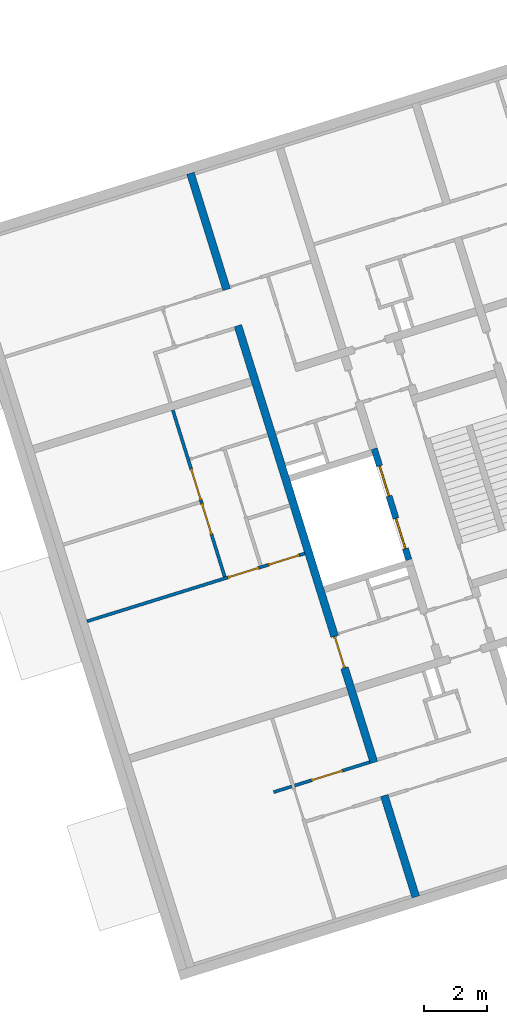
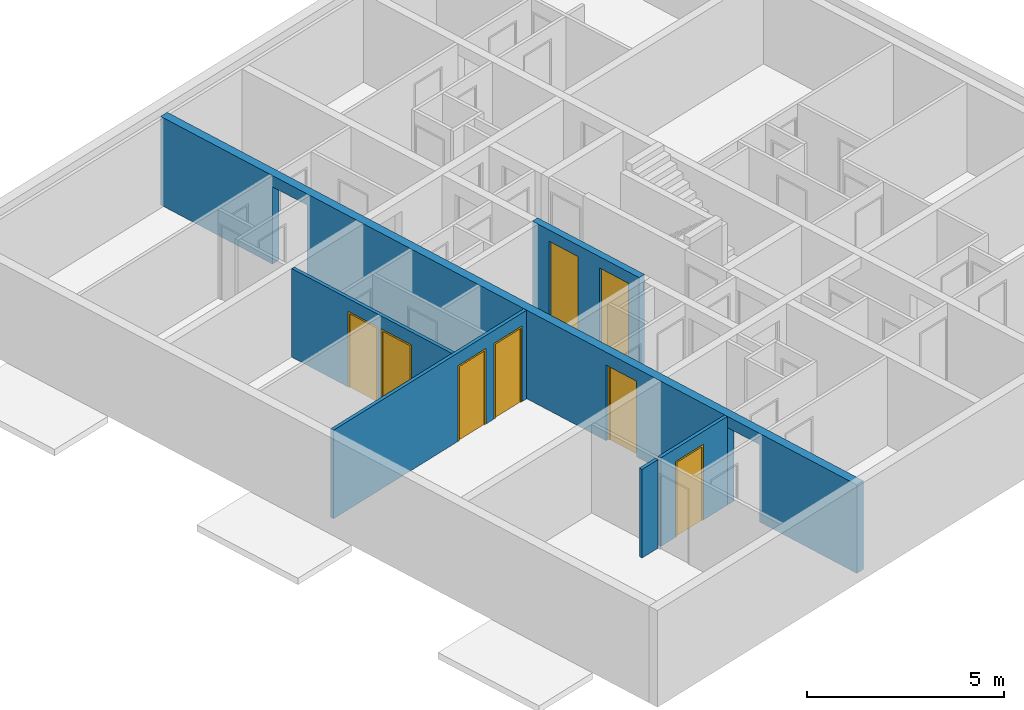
# One storey, part 8 of 9: 8 doors, 5 walls, 11 openings.
"""IFC4 building model written with IfcOpenShell, lengths in metres."""

import ifcopenshell
import ifcopenshell.guid

model = None  # the IFC model being written
_history = None  # IfcOwnerHistory: only IFC2X3 demands one
_inside = {}  # id of a spatial element -> (the spatial element, [elements in it])
_under = {}  # id of a project, library or spatial element -> (it, [spatial elements below it])
_declared = {}  # id of a project -> (the project, [libraries it declares])
_typed = {}  # id of a type object -> (the type object, [elements of that type])
_made_of = {}  # id of a material, layer set ... -> (it, [elements and type objects made of it])


def new_model(schema):
    """Start an empty IFC model of exactly this schema.

    Asked for "IFC4X3", IfcOpenShell would pick the latest addendum, in which some entities
    have other attributes; the version numbers below select the first issue.
    IFC2X3 requires an IfcOwnerHistory on every rooted entity: one is made here for all.
    """
    global model, _history
    if schema == "IFC4X3":
        model = ifcopenshell.file(schema_version=(4, 3, 0, 0))
    else:
        model = ifcopenshell.file(schema=schema)
    _inside.clear()
    _under.clear()
    _declared.clear()
    _typed.clear()
    _made_of.clear()
    _history = None
    if model.schema == "IFC2X3":
        org = make("IfcOrganization", Name="unknown")
        user = make(
            "IfcPersonAndOrganization",
            ThePerson=make("IfcPerson", FamilyName="unknown"),
            TheOrganization=org,
        )
        app = make(
            "IfcApplication",
            ApplicationDeveloper=org,
            Version="unknown",
            ApplicationFullName="unknown",
            ApplicationIdentifier="unknown",
        )
        _history = make(
            "IfcOwnerHistory",
            OwningUser=user,
            OwningApplication=app,
            ChangeAction="ADDED",
            CreationDate=0,
        )
    return model


def make(cls, **values):
    """One entity of the class cls with the attributes given. An attribute that is None is left unset."""
    return model.create_entity(
        cls, **{name: value for name, value in values.items() if value is not None}
    )


def entity(cls, *values):
    """Any entity or typed value of the class cls, its attributes in the order of the schema. None: left unset."""
    e = model.create_entity(cls)
    for i, value in enumerate(values):
        if value is not None:
            e[i] = value
    return e


def rooted(cls, **values):
    """An entity with a GlobalId (a new one), such as an element, a storey or a relation."""
    return make(cls, GlobalId=ifcopenshell.guid.new(), OwnerHistory=_history, **values)


def si_unit(unit_type, name, prefix=None):
    """IfcSIUnit, for example si_unit("LENGTHUNIT", "METRE", prefix="MILLI")."""
    return make("IfcSIUnit", UnitType=unit_type, Prefix=prefix, Name=name)


def converted_unit(unit_type, name, factor, base, dimensions=None, offset=None):
    """IfcConversionBasedUnit, such as the inch: factor (a typed value) times the base unit."""
    return make(
        "IfcConversionBasedUnit"
        if offset is None
        else "IfcConversionBasedUnitWithOffset",
        ConversionOffset=offset,
        Dimensions=None
        if dimensions is None
        else entity("IfcDimensionalExponents", *dimensions),
        UnitType=unit_type,
        Name=name,
        ConversionFactor=make(
            "IfcMeasureWithUnit", ValueComponent=factor, UnitComponent=base
        ),
    )


def assignment(units):
    """IfcUnitAssignment: the units of a project."""
    return None if units is None else make("IfcUnitAssignment", Units=units)


def point(xyz):
    """IfcCartesianPoint."""
    return None if xyz is None else make("IfcCartesianPoint", Coordinates=xyz)


def direction(xyz):
    """IfcDirection."""
    return None if xyz is None else make("IfcDirection", DirectionRatios=xyz)


def frame(location, z_axis=None, x_axis=None):
    """IfcAxis2Placement3D, a coordinate frame: its origin and axes. An axis left out is left unset."""
    return make(
        "IfcAxis2Placement3D",
        Location=point(location),
        Axis=direction(z_axis),
        RefDirection=direction(x_axis),
    )


def origin():
    """The frame at (0, 0, 0) with its axes left unset."""
    return frame((0.0, 0.0, 0.0))


def place(relative_to, where):
    """IfcLocalPlacement: puts the frame where relative to a parent placement (None: the world)."""
    return make(
        "IfcLocalPlacement", PlacementRelTo=relative_to, RelativePlacement=where
    )


def context(
    kind, dimensions, precision=None, world=None, true_north=None, identifier=None
):
    """IfcGeometricRepresentationContext, for example the 3D "Model" context."""
    return make(
        "IfcGeometricRepresentationContext",
        ContextIdentifier=identifier,
        ContextType=kind,
        CoordinateSpaceDimension=dimensions,
        Precision=precision,
        WorldCoordinateSystem=world,
        TrueNorth=true_north,
    )


def subcontext(parent, identifier, kind, view, scale=None):
    """IfcGeometricRepresentationSubContext, for example "Body" below "Model"."""
    return make(
        "IfcGeometricRepresentationSubContext",
        ContextIdentifier=identifier,
        ContextType=kind,
        ParentContext=parent,
        TargetScale=scale,
        TargetView=view,
    )


def project(units=None, contexts=None):
    """IfcProject with its units and contexts."""
    return rooted(
        "IfcProject",
        Name="project",
        RepresentationContexts=contexts,
        UnitsInContext=assignment(units),
    )


def spatial(cls, under=None, at=None, **own):
    """A site, building, storey or space (cls), placed at a placement, below another one or the project."""
    s = rooted(cls, ObjectPlacement=at, **own)
    if under is not None:
        _under.setdefault(under.id(), (under, []))[1].append(s)
    return s


def point_list(points):
    """IfcCartesianPointList2D or 3D."""
    cls = (
        "IfcCartesianPointList2D" if len(points[0]) == 2 else "IfcCartesianPointList3D"
    )
    return make(cls, CoordList=points)


def indexed_curve(points, segments=None, self_intersect=None):
    """IfcIndexedPolyCurve: lines and arcs through numbered points (the first is 1)."""
    return make(
        "IfcIndexedPolyCurve",
        Points=point_list(points),
        Segments=segments,
        SelfIntersect=self_intersect,
    )


def outline(outer, holes=None, kind="AREA"):
    """IfcArbitraryClosedProfileDef: a profile drawn as a closed curve; with holes, ...WithVoids."""
    if holes is None:
        return make("IfcArbitraryClosedProfileDef", ProfileType=kind, OuterCurve=outer)
    return make(
        "IfcArbitraryProfileDefWithVoids",
        ProfileType=kind,
        OuterCurve=outer,
        InnerCurves=holes,
    )


def extrude(swept, where, along, depth):
    """IfcExtrudedAreaSolid: the profile swept, set in the frame where, extruded along a direction by depth."""
    return make(
        "IfcExtrudedAreaSolid",
        SweptArea=swept,
        Position=where,
        ExtrudedDirection=direction(along),
        Depth=depth,
    )


def polygons(points, faces, closed=None, point_numbers=None):
    """IfcPolygonalFaceSet: a face is its outer loop, then its inner loops; points numbered from 1."""
    made = []
    for loops in faces:
        if len(loops) == 1:
            made.append(make("IfcIndexedPolygonalFace", CoordIndex=loops[0]))
        else:
            made.append(
                make(
                    "IfcIndexedPolygonalFaceWithVoids",
                    CoordIndex=loops[0],
                    InnerCoordIndices=loops[1:],
                )
            )
    return make(
        "IfcPolygonalFaceSet",
        Coordinates=point_list(points),
        Closed=closed,
        Faces=made,
        PnIndex=point_numbers,
    )


def shape(context_of_items, identifier, shape_type, items):
    """IfcShapeRepresentation: the items that make up one representation, for example the "Body"."""
    return make(
        "IfcShapeRepresentation",
        ContextOfItems=context_of_items,
        RepresentationIdentifier=identifier,
        RepresentationType=shape_type,
        Items=items,
    )


def source(mapping_origin, context_of_items, identifier, shape_type, items):
    """IfcRepresentationMap: a shape defined once, which mapped items show again and again."""
    return make(
        "IfcRepresentationMap",
        MappingOrigin=mapping_origin,
        MappedRepresentation=shape(context_of_items, identifier, shape_type, items),
    )


def transform(
    local_origin,
    x_axis=None,
    y_axis=None,
    z_axis=None,
    scale=None,
    scale2=None,
    scale3=None,
    uniform=True,
):
    """IfcCartesianTransformationOperator3D, or its non-uniform kind. x_axis, y_axis, z_axis: its Axis1, 2, 3."""
    if uniform:
        return make(
            "IfcCartesianTransformationOperator3D",
            Axis1=direction(x_axis),
            Axis2=direction(y_axis),
            LocalOrigin=point(local_origin),
            Scale=scale,
            Axis3=direction(z_axis),
        )
    return make(
        "IfcCartesianTransformationOperator3DnonUniform",
        Axis1=direction(x_axis),
        Axis2=direction(y_axis),
        LocalOrigin=point(local_origin),
        Scale=scale,
        Axis3=direction(z_axis),
        Scale2=scale2,
        Scale3=scale3,
    )


def mapped(mapping_source, mapping_target):
    """IfcMappedItem: shows the shape of a source again, moved by a transform."""
    return make(
        "IfcMappedItem", MappingSource=mapping_source, MappingTarget=mapping_target
    )


def material(Name=None, Category=None):
    """IfcMaterial."""
    return make("IfcMaterial", Name=Name, Category=Category)


def constituent(of_material, Name=None, Category=None, fraction=None):
    """IfcMaterialConstituent: one of the materials an element consists of."""
    return make(
        "IfcMaterialConstituent",
        Name=Name,
        Material=of_material,
        Fraction=fraction,
        Category=Category,
    )


def constituent_set(constituents=None, Name=None):
    """IfcMaterialConstituentSet."""
    return make(
        "IfcMaterialConstituentSet", Name=Name, MaterialConstituents=constituents
    )


def made_of(thing, what):
    """Note that an element or type object is made of a material, layer set ...; save() writes the relation."""
    if what is not None:
        _made_of.setdefault(what.id(), (what, []))[1].append(thing)
    return thing


def type_object(cls, material=None, **own):
    """A type object (cls), such as IfcWallType, which elements share."""
    return made_of(rooted(cls, **own), material)


def type_shapes(of_type, sources):
    """Give a type object the sources (RepresentationMaps) that its elements show as mapped items."""
    of_type.RepresentationMaps = sources


def element(
    cls,
    number,
    at=None,
    inside=None,
    cuts=None,
    type_object=None,
    material=None,
    context=None,
    identifier="Body",
    shape_type=None,
    held_by="IfcProductDefinitionShape",
    body=None,
    shapes=None,
    **own,
):
    """One element of the class cls, such as IfcWall. Its Tag is "e" and its number.

    at: its placement. inside: the storey or other place that contains it. cuts: it is an
    opening in that element (IfcRelVoidsElement). A single representation is given by context,
    identifier, shape_type and body (its items); several are given by shapes. held_by: the class
    of the entity that holds the representations. save() writes the other relations.
    """
    e = rooted(cls, Tag="e%d" % number, ObjectPlacement=at, **own)
    if body is not None:
        shapes = [shape(context, identifier, shape_type, body)]
    if shapes is not None:
        e.Representation = make(held_by, Representations=shapes)
    if inside is not None:
        _inside.setdefault(inside.id(), (inside, []))[1].append(e)
    if cuts is not None:
        rooted(
            "IfcRelVoidsElement", RelatingBuildingElement=cuts, RelatedOpeningElement=e
        )
    if type_object is not None:
        _typed.setdefault(type_object.id(), (type_object, []))[1].append(e)
    return made_of(e, material)


def fill(opening, filler):
    """IfcRelFillsElement: the door or window that sits in an opening."""
    return rooted(
        "IfcRelFillsElement",
        RelatingOpeningElement=opening,
        RelatedBuildingElement=filler,
    )


def aggregate(whole, parts):
    """IfcRelAggregates: a whole, such as a stair, and the parts it consists of."""
    return rooted("IfcRelAggregates", RelatingObject=whole, RelatedObjects=parts)


def save(model, path):
    """Write the relations noted so far, then the file.

    IfcRelAggregates (storeys below a building ...), IfcRelContainedInSpatialStructure (elements
    in a storey), IfcRelDefinesByType, IfcRelAssociatesMaterial and IfcRelDeclares: one each for
    every whole, place, type object, material and project.
    """
    for whole, parts in _under.values():
        aggregate(whole, parts)
    for where, things in _inside.values():
        rooted(
            "IfcRelContainedInSpatialStructure",
            RelatedElements=things,
            RelatingStructure=where,
        )
    for kind, things in _typed.values():
        rooted("IfcRelDefinesByType", RelatedObjects=things, RelatingType=kind)
    for what, things in _made_of.values():
        rooted("IfcRelAssociatesMaterial", RelatedObjects=things, RelatingMaterial=what)
    for by, libraries in _declared.values():
        rooted("IfcRelDeclares", RelatingContext=by, RelatedDefinitions=libraries)
    model.write(path)


model = new_model("IFC4")

# Units and contexts
model_context = context("Model", 3, precision=1e-05, world=origin(), true_north=direction((6.12323399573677e-17, 1.0)))
body_context = subcontext(model_context, "Body", "Model", "MODEL_VIEW")
ifc_project = project(units=[si_unit("LENGTHUNIT", "METRE"), si_unit("AREAUNIT", "SQUARE_METRE"), si_unit("VOLUMEUNIT", "CUBIC_METRE"), converted_unit("PLANEANGLEUNIT", "DEGREE", entity("IfcPlaneAngleMeasure", 0.0174532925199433), si_unit("PLANEANGLEUNIT", "RADIAN"), dimensions=[0, 0, 0, 0, 0, 0, 0])], contexts=[model_context])

# Site, building, storey
site_placement = place(None, frame((13.1347999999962, 11.9886000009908, 0.0), z_axis=(0.0, 0.0, 1.0), x_axis=(0.954770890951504, 0.297342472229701, 0.0)))
site = spatial("IfcSite", under=ifc_project, at=site_placement, Name="Schiehaven", CompositionType="ELEMENT")
building_placement = place(site_placement, origin())
building = spatial("IfcBuilding", under=site, at=building_placement, Name="VORM huis", CompositionType="ELEMENT")
storey_placement = place(building_placement, frame((0.0, 0.0, 15.9)))
storey = spatial("IfcBuildingStorey", under=building, at=storey_placement, Name="05 vijfde verdieping", CompositionType="ELEMENT", Elevation=15.9)

# Wall, openings, door
ifc_material_1 = material(Name="beton_gewapend_ihw", Category="Miscellaneous")
wall_type_1 = type_object("IfcWallType", Name="Basic Wall:28_WA_skelet_wand 250mm_gen", PredefinedType="STANDARD")
wall_1_placement = place(storey_placement, frame((12.5000000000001, 5.0, 0.0), z_axis=(0.0, 0.0, 1.0), x_axis=(0.0, 1.0, 0.0)))
wall_1 = element("IfcWall", 1, at=wall_1_placement, inside=storey, type_object=wall_type_1, material=ifc_material_1, Name="Constructieve wand", ObjectType="Wand", PredefinedType="NOTDEFINED", context=body_context, shape_type="Tessellation", body=[
    polygons([(8.67499999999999, -0.125, 2.34999999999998), (8.67499999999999, -0.125, -2.16573425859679e-15), (19.0250000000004, -0.124999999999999, -2.16573425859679e-15), (19.0250000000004, -0.124999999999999, 2.4), (20.2250000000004, -0.124999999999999, 2.4), (20.2250000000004, -0.124999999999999, -2.16573425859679e-15), (24.1, -0.125, -2.16573425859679e-15), (24.1, -0.125, 2.75), (7.025, -0.124999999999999, 2.75), (6.775, -0.125, 2.75), (0.0, -0.125, 2.75), (1.08286712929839e-15, -0.125, -2.16573425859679e-15), (3.37500000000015, -0.124999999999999, -2.16573425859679e-15), (3.37500000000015, -0.124999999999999, 2.4), (4.47500000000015, -0.125, 2.4), (4.47500000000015, -0.125, -2.16573425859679e-15), (6.775, -0.125, -2.16573425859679e-15), (7.025, -0.124999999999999, -2.16573425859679e-15), (7.62499999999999, -0.124999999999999, -2.16573425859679e-15), (7.62499999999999, -0.124999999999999, 2.34999999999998), (19.0250000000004, 0.125, -2.16573425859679e-15), (8.67499999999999, 0.125, -2.16573425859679e-15), (8.67499999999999, 0.125, 2.34999999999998), (7.62499999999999, 0.125, 2.34999999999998), (7.62499999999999, 0.125, -2.16573425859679e-15), (4.47500000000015, 0.124999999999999, -2.16573425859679e-15), (4.47500000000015, 0.124999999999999, 2.4), (3.37500000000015, 0.125000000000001, 2.4), (3.37500000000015, 0.125000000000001, -2.16573425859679e-15), (1.08286712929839e-15, 0.125, -2.16573425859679e-15), (0.0, 0.125, 2.75), (24.1, 0.124999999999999, 2.75), (24.1, 0.124999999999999, -2.16573425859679e-15), (20.2250000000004, 0.125, -2.16573425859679e-15), (20.2250000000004, 0.125, 2.4), (19.0250000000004, 0.125, 2.4)], [[[1, 2, 3, 4, 5, 6, 7, 8, 9, 10, 11, 12, 13, 14, 15, 16, 17, 18, 19, 20]], [[21, 22, 23, 24, 25, 26, 27, 28, 29, 30, 31, 32, 33, 34, 35, 36]], [[12, 30, 29, 13]], [[8, 7, 33, 32]], [[11, 10, 9, 8, 32, 31]], [[12, 11, 31, 30]], [[14, 28, 27, 15]], [[28, 14, 13, 29]], [[15, 27, 26, 16]], [[4, 36, 35, 5]], [[36, 4, 3, 21]], [[5, 35, 34, 6]], [[25, 24, 20, 19]], [[23, 22, 2, 1]], [[24, 23, 1, 20]], [[19, 18, 17, 16, 26, 25]], [[3, 2, 22, 21]], [[33, 7, 6, 34]]], closed=True),
])
opening_1_placement = place(wall_1_placement, origin())
element("IfcOpeningElement", 2, at=opening_1_placement, cuts=wall_1, Name="Constructieve wand", PredefinedType="OPENING", context=body_context, shape_type="SweptSolid", body=[
    extrude(outline(indexed_curve([(-1.2, -0.550000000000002), (1.2, -0.550000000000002), (1.2, 0.550000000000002), (-1.2, 0.550000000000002), (-1.2, -0.550000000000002)], self_intersect=False)), frame((3.92500000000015, -0.125, 1.2), z_axis=(0.0, 1.0, 0.0), x_axis=(0.0, 0.0, -1.0)), (0.0, 0.0, 1.0), 0.249999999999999),
])
opening_2_placement = place(wall_1_placement, origin())
element("IfcOpeningElement", 3, at=opening_2_placement, cuts=wall_1, Name="Constructieve wand", PredefinedType="OPENING", context=body_context, shape_type="SweptSolid", body=[
    extrude(outline(indexed_curve([(-1.2, -0.599999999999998), (1.2, -0.599999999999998), (1.2, 0.599999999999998), (-1.2, 0.599999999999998), (-1.2, -0.599999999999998)], self_intersect=False)), frame((19.6250000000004, -0.124999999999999, 1.2), z_axis=(0.0, 1.0, 0.0), x_axis=(0.0, 0.0, -1.0)), (0.0, 0.0, 1.0), 0.249999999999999),
])
opening_3_placement = place(wall_1_placement, frame((8.67499999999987, 0.124999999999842, 0.0)))
opening_3 = element("IfcOpeningElement", 4, at=opening_3_placement, cuts=wall_1, Name="Binnendeur", PredefinedType="OPENING", context=body_context, shape_type="SweptSolid", body=[
    extrude(outline(indexed_curve([(2.34999999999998, 1.05), (0.0, 1.05), (0.0, 1.08286712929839e-15), (2.34999999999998, 1.08286712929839e-15), (2.34999999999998, 1.05)], self_intersect=False)), frame((0.0, 0.0, 0.0), z_axis=(0.0, -1.0, 0.0), x_axis=(0.0, 0.0, 1.0)), (0.0, 0.0, 1.0), 0.25),
])
ifc_material_2 = material(Name="PD_a_binnenwandopeningen", Category="Miscellaneous")
ifc_constituent_1 = constituent(ifc_material_2, Name="PD_a_binnenwandopeningen", Category="Miscellaneous")
ifc_material_3 = material(Name="metaal_aluminium_ntb", Category="Miscellaneous")
ifc_constituent_2 = constituent(ifc_material_3, Name="metaal_aluminium_ntb", Category="Miscellaneous")
ifc_constituent_set_1 = constituent_set(constituents=[ifc_constituent_1, ifc_constituent_2])
door_type_1 = type_object("IfcDoorType", Name="32_DO_binnendeur enkel:binnendeur", OperationType="REVOLVING", PredefinedType="DOOR")
shared_shape_1 = source(origin(), body_context, "Body", "SweptSolid", [
    extrude(outline(indexed_curve([(-1.16249999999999, -0.525000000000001), (1.18749999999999, -0.525), (1.18749999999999, 0.525000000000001), (-1.16249999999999, 0.525000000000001), (-1.16249999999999, 0.475), (1.13749999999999, 0.475), (1.13749999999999, -0.475), (-1.16249999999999, -0.475), (-1.16249999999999, -0.525000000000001)], self_intersect=False)), frame((0.525000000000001, 0.0749999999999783, 1.16249999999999), z_axis=(0.0, 1.0, 0.0), x_axis=(0.0, 0.0, 1.0)), (0.0, 0.0, 1.0), 0.1),
    extrude(outline(indexed_curve([(-0.025, -0.475), (0.025, -0.475), (0.025, 0.475), (-0.025, 0.475), (-0.025, -0.475)], self_intersect=False)), frame((0.525000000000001, 0.12499999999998, 0.0), z_axis=(0.0, 0.0, 1.0), x_axis=(0.0, 1.0, 0.0)), (0.0, 0.0, 1.0), 2.29999999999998),
])
door_1_placement = place(opening_3_placement, frame((0.0, 0.0, 0.0), z_axis=(0.0, 0.0, 1.0), x_axis=(-1.0, 0.0, 0.0)))
door_1 = element("IfcDoor", 5, at=door_1_placement, inside=storey, type_object=door_type_1, material=ifc_constituent_set_1, Name="Binnendeur", ObjectType="Deur", OperationType="REVOLVING", OverallHeight=2.34999999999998, OverallWidth=1.05, PredefinedType="DOOR", context=body_context, shape_type="MappedRepresentation", body=[
    mapped(shared_shape_1, transform((0.0, 0.0, 0.0), scale=1.0)),
])
fill(opening_3, door_1)

# Wall, openings, doors
ifc_material_4 = material(Name="beton_gewapend_prefab-element", Category="Miscellaneous")
wall_type_2 = type_object("IfcWallType", Name="Basic Wall:28_WA_skelet_wand 200mm_gen", PredefinedType="STANDARD")
wall_2_placement = place(storey_placement, frame((15.4750000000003, 15.3, 0.0), z_axis=(0.0, 0.0, 1.0), x_axis=(0.0, 1.0, 0.0)))
wall_2 = element("IfcWall", 6, at=wall_2_placement, inside=storey, type_object=wall_type_2, material=ifc_material_4, Name="Constructieve wand", ObjectType="Wand", PredefinedType="NOTDEFINED", context=body_context, shape_type="Tessellation", body=[
    polygons([(3.7, -0.0999999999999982, 2.75), (2.16573425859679e-15, -0.0999999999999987, 2.75), (2.16573425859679e-15, -0.0999999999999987, -2.16573425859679e-15), (0.374999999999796, -0.0999999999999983, -2.16573425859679e-15), (0.374999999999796, -0.0999999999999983, 2.39999999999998), (1.3749999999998, -0.0999999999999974, 2.39999999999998), (1.3749999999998, -0.0999999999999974, -2.16573425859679e-15), (2.1249999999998, -0.100000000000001, -2.16573425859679e-15), (2.1249999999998, -0.100000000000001, 2.39999999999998), (3.1249999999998, -0.1, 2.39999999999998), (3.1249999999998, -0.1, -2.16573425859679e-15), (3.7, -0.0999999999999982, -2.16573425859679e-15), (2.16573425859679e-15, 0.100000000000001, 2.75), (3.5, 0.100000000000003, 2.75), (3.7, 0.0999999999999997, 2.75), (3.7, 0.0999999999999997, -2.16573425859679e-15), (3.5, 0.100000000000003, -2.16573425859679e-15), (3.1249999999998, 0.100000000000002, -2.16573425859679e-15), (3.1249999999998, 0.100000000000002, 2.39999999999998), (2.1249999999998, 0.100000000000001, 2.39999999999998), (2.1249999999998, 0.100000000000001, -2.16573425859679e-15), (1.3749999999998, 0.100000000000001, -2.16573425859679e-15), (1.3749999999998, 0.100000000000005, 2.39999999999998), (0.3749999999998, 0.100000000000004, 2.39999999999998), (0.3749999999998, 0.100000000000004, -2.16573425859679e-15), (0.0, 0.100000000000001, -2.16573425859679e-15)], [[[1, 2, 3, 4, 5, 6, 7, 8, 9, 10, 11, 12]], [[13, 14, 15, 16, 17, 18, 19, 20, 21, 22, 23, 24, 25, 26]], [[4, 3, 26, 25]], [[2, 1, 15, 14, 13]], [[6, 23, 22, 7]], [[24, 5, 4, 25]], [[23, 6, 5, 24]], [[10, 19, 18, 11]], [[20, 9, 8, 21]], [[19, 10, 9, 20]], [[1, 12, 16, 15]], [[3, 2, 13, 26]], [[7, 22, 21, 8]], [[16, 12, 11, 18, 17]]], closed=True),
])
opening_4_placement = place(wall_2_placement, frame((-15.3, 15.4750000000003, 0.0), z_axis=(0.0, 0.0, 1.0), x_axis=(0.0, -1.0, 0.0)))
opening_4 = element("IfcOpeningElement", 7, at=opening_4_placement, cuts=wall_2, Name="Brandweerlift", PredefinedType="OPENING", context=body_context, shape_type="SweptSolid", body=[
    extrude(outline(indexed_curve([(-1.19999999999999, -0.499999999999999), (1.19999999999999, -0.499999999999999), (1.19999999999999, 0.500000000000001), (-1.19999999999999, 0.500000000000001), (-1.19999999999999, -0.499999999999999)], self_intersect=False)), frame((15.7436720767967, 16.1749999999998, 1.19999999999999), z_axis=(-1.0, 0.0, 0.0), x_axis=(0.0, 0.0, -1.0)), (0.0, 0.0, 1.0), 0.756310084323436),
])
opening_5_placement = place(wall_2_placement, frame((-15.3, 15.4750000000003, 0.0), z_axis=(0.0, 0.0, 1.0), x_axis=(0.0, -1.0, 0.0)))
opening_5 = element("IfcOpeningElement", 8, at=opening_5_placement, cuts=wall_2, Name="Brandweerlift", PredefinedType="OPENING", context=body_context, shape_type="SweptSolid", body=[
    extrude(outline(indexed_curve([(-1.19999999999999, -0.500000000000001), (1.19999999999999, -0.500000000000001), (1.19999999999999, 0.499999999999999), (-1.19999999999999, 0.499999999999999), (-1.19999999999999, -0.500000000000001)], self_intersect=False)), frame((15.7436720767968, 17.9249999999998, 1.19999999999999), z_axis=(-1.0, 0.0, 0.0), x_axis=(0.0, 0.0, -1.0)), (0.0, 0.0, 1.0), 0.756310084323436),
])
door_type_2 = type_object("IfcDoorType", Name="66_WI_liftdeur:brandweerlift - tweezijdig toegankelijk", OperationType="NOTDEFINED", PredefinedType="DOOR", material=ifc_material_3)
shared_shape_2 = source(origin(), body_context, "Body", "SweptSolid", [
    extrude(outline(indexed_curve([(-0.0250000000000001, -0.25), (0.0249999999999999, -0.25), (0.0250000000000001, 0.25), (-0.0249999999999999, 0.25), (-0.0250000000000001, -0.25)], self_intersect=False)), frame((0.250000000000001, 0.487638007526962, 0.0), z_axis=(0.0, 0.0, 1.0), x_axis=(0.0, 1.0, 0.0)), (0.0, 0.0, 1.0), 2.39999999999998),
    extrude(outline(indexed_curve([(-0.0250000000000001, -0.25), (0.0249999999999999, -0.25), (0.0250000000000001, 0.25), (-0.0249999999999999, 0.25), (-0.0250000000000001, -0.25)], self_intersect=False)), frame((0.750000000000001, 0.48763800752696, 0.0), z_axis=(0.0, 0.0, 1.0), x_axis=(0.0, 1.0, 0.0)), (0.0, 0.0, 1.0), 2.39999999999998),
])
type_shapes(door_type_2, [shared_shape_2])
door_2_placement = place(opening_4_placement, frame((14.9873619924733, 16.6749999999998, 0.0), z_axis=(0.0, 0.0, 1.0), x_axis=(0.0, -1.0, 0.0)))
door_2 = element("IfcDoor", 9, at=door_2_placement, inside=storey, type_object=door_type_2, material=ifc_material_3, Name="Brandweerlift", ObjectType="Transport", OperationType="NOTDEFINED", OverallHeight=2.39999999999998, OverallWidth=1.0, PredefinedType="DOOR", context=body_context, shape_type="MappedRepresentation", body=[
    mapped(shared_shape_2, transform((0.0, 0.0, 0.0), scale=1.0)),
])
fill(opening_4, door_2)
door_3_placement = place(opening_5_placement, frame((14.9873619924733, 18.4249999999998, 0.0), z_axis=(0.0, 0.0, 1.0), x_axis=(0.0, -1.0, 0.0)))
door_3 = element("IfcDoor", 10, at=door_3_placement, inside=storey, type_object=door_type_2, material=ifc_material_3, Name="Brandweerlift", ObjectType="Transport", OperationType="NOTDEFINED", OverallHeight=2.39999999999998, OverallWidth=1.0, PredefinedType="DOOR", context=body_context, shape_type="MappedRepresentation", body=[
    mapped(shared_shape_2, transform((0.0, 0.0, 0.0), scale=1.0)),
])
fill(opening_5, door_3)

# Wall, openings, door
ifc_material_5 = material(Name="ntb_ntb_ntb", Category="Miscellaneous")
wall_type_3 = type_object("IfcWallType", Name="Basic Wall:22_WA_afbouw_binnenwand 100mm_gen", PredefinedType="STANDARD")
wall_3_placement = place(storey_placement, frame((12.3750000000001, 9.52499999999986, 0.0), z_axis=(0.0, 0.0, 1.0), x_axis=(-1.0, 0.0, 0.0)))
wall_3 = element("IfcWall", 11, at=wall_3_placement, inside=storey, type_object=wall_type_3, material=ifc_material_5, Name="Binnenwand", ObjectType="Wand", PredefinedType="NOTDEFINED", context=body_context, shape_type="Tessellation", body=[
    polygons([(-2.22976765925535e-15, -0.0500000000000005, 2.75), (-2.22976765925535e-15, -0.0500000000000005, 0.0), (0.899999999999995, -0.0500000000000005, 0.0), (0.899999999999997, -0.0500000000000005, 2.34999999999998), (1.95, -0.0500000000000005, 2.34999999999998), (1.95, -0.0500000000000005, 0.0), (2.50000000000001, -0.0500000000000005, 0.0), (2.50000000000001, -0.0500000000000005, 2.75), (-2.09904175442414e-15, 0.0499999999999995, 0.0), (0.899999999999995, 0.0499999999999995, 0.0), (-2.09904175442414e-15, 0.0499999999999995, 2.75), (1.95, 0.0499999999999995, 2.34999999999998), (1.95, 0.0499999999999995, 0.0), (0.899999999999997, 0.0499999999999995, 2.34999999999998), (2.50000000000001, 0.0499999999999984, 0.0), (2.50000000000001, 0.0499999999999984, 2.75)], [[[1, 2, 3, 4, 5, 6, 7, 8]], [[2, 9, 10, 3]], [[2, 1, 11, 9]], [[6, 5, 12, 13]], [[4, 3, 10, 14]], [[5, 4, 14, 12]], [[8, 7, 15, 16]], [[11, 1, 8, 16]], [[6, 13, 15, 7]], [[9, 11, 16, 15, 13, 12, 14, 10]]], closed=True),
    polygons([(3.2, 0.0500000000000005, 2.75), (3.2, 0.0500000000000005, 0.0), (2.60000000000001, 0.0499999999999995, 0.0), (2.60000000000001, 0.0499999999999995, 2.75), (3.2, -0.0499999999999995, 2.75), (3.2, -0.0499999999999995, 0.0), (2.60000000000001, -0.0500000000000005, 2.75), (2.60000000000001, -0.0500000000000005, 0.0)], [[[1, 2, 3, 4]], [[5, 6, 2, 1]], [[5, 1, 4, 7]], [[8, 7, 4, 3]], [[2, 6, 8, 3]], [[6, 5, 7, 8]]], closed=True),
])
opening_6_placement = place(storey_placement, frame((12.3750000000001, 9.52499999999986, 0.0), z_axis=(0.0, 0.0, 1.0), x_axis=(-1.0, 0.0, 0.0)))
element("IfcOpeningElement", 12, at=opening_6_placement, cuts=wall_3, Name="Binnenwand:1", PredefinedType="OPENING", context=body_context, shape_type="SweptSolid", body=[
    extrude(outline(indexed_curve([(-1.375, -0.0499999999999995), (1.375, -0.0499999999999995), (1.375, 0.0500000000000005), (-1.375, 0.0500000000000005), (-1.375, -0.0499999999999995)], self_intersect=False)), frame((2.60000000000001, 0.0, 1.375), z_axis=(-1.0, 0.0, 0.0), x_axis=(0.0, 0.0, 1.0)), (0.0, 0.0, 1.0), 0.100000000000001),
])
opening_7_placement = place(wall_3_placement, frame((0.899999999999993, -0.0500000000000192, 0.0)))
opening_7 = element("IfcOpeningElement", 13, at=opening_7_placement, cuts=wall_3, Name="Binnendeur", PredefinedType="OPENING", context=body_context, shape_type="SweptSolid", body=[
    extrude(outline(indexed_curve([(2.34999999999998, 1.05), (0.0, 1.05), (0.0, 1.35358391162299e-15), (2.34999999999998, 1.35358391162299e-15), (2.34999999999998, 1.05)], self_intersect=False)), frame((0.0, 0.0, 0.0), z_axis=(0.0, 1.0, 0.0), x_axis=(0.0, 0.0, 1.0)), (0.0, 0.0, 1.0), 0.1),
])
ifc_constituent_3 = constituent(ifc_material_2, Name="PD_a_binnenwandopeningen", Category="Miscellaneous")
ifc_constituent_4 = constituent(ifc_material_3, Name="metaal_aluminium_ntb", Category="Miscellaneous")
ifc_constituent_set_2 = constituent_set(constituents=[ifc_constituent_3, ifc_constituent_4])
shared_shape_3 = source(origin(), body_context, "Body", "SweptSolid", [
    extrude(outline(indexed_curve([(-1.16249999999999, -0.525000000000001), (1.18749999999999, -0.525), (1.18749999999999, 0.525), (-1.16249999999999, 0.525), (-1.16249999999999, 0.475), (1.13749999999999, 0.475), (1.13749999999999, -0.475), (-1.16249999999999, -0.475), (-1.16249999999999, -0.525000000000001)], self_intersect=False)), frame((0.525000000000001, 0.0, 1.16249999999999), z_axis=(0.0, 1.0, 0.0), x_axis=(0.0, 0.0, 1.0)), (0.0, 0.0, 1.0), 0.1),
    extrude(outline(indexed_curve([(-0.025, -0.475), (0.025, -0.475), (0.025, 0.475), (-0.025, 0.475), (-0.025, -0.475)], self_intersect=False)), frame((0.525000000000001, 0.0499999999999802, 0.0), z_axis=(0.0, 0.0, 1.0), x_axis=(0.0, 1.0, 0.0)), (0.0, 0.0, 1.0), 2.29999999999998),
])
type_shapes(door_type_1, [shared_shape_3])
door_4_placement = place(opening_7_placement, origin())
door_4 = element("IfcDoor", 14, at=door_4_placement, inside=storey, type_object=door_type_1, material=ifc_constituent_set_2, Name="Binnendeur", ObjectType="Deur", OperationType="REVOLVING", OverallHeight=2.34999999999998, OverallWidth=1.05, PredefinedType="DOOR", context=body_context, shape_type="MappedRepresentation", body=[
    mapped(shared_shape_3, transform((0.0, 0.0, 0.0), scale=1.0)),
])
fill(opening_7, door_4)

# Wall, openings, doors
wall_4_placement = place(storey_placement, frame((12.3771642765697, 16.475, 0.0), z_axis=(0.0, 0.0, 1.0), x_axis=(-1.0, 0.0, 0.0)))
wall_4 = element("IfcWall", 15, at=wall_4_placement, inside=storey, type_object=wall_type_3, material=ifc_material_5, Name="Binnenwand", ObjectType="Wand", PredefinedType="NOTDEFINED", context=body_context, shape_type="Tessellation", body=[
    polygons([(2.66089944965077e-16, -0.0500000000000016, 0.0), (0.176082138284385, -0.0499999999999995, 0.0), (0.176082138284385, -0.0499999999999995, 2.34999999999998), (1.22608213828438, -0.0499999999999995, 2.34999999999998), (1.22608213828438, -0.0499999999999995, 0.0), (1.40216427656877, -0.0499999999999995, 0.0), (1.50216427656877, -0.0499999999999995, 0.0), (1.52716427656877, -0.0499999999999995, 0.0), (1.52716427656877, -0.0499999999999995, 2.34999999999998), (2.57716427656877, -0.0499999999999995, 2.34999999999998), (2.57716427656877, -0.0499999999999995, 0.0), (2.60216427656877, -0.0500000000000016, 0.0), (2.70216427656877, -0.0499999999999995, 0.0), (7.25216427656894, -0.0500000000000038, 0.0), (7.25216427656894, -0.0500000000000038, 2.75), (2.70216427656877, -0.0499999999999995, 2.75), (2.60216427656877, -0.0500000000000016, 2.75), (1.50216427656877, -0.0499999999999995, 2.75), (1.40216427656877, -0.0499999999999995, 2.75), (2.66089944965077e-16, -0.0500000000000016, 2.75), (0.176082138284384, 0.0500000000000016, 2.34999999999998), (0.176082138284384, 0.0500000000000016, 0.0), (-3.90810526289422e-16, 0.0499999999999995, 0.0), (-3.90810526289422e-16, 0.0499999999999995, 2.75), (7.25216427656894, 0.0499999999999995, 2.75), (7.25216427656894, 0.0499999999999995, 0.0), (2.57716427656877, 0.0500000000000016, 0.0), (2.57716427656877, 0.0500000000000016, 2.34999999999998), (1.52716427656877, 0.0500000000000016, 2.34999999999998), (1.52716427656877, 0.0500000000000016, 0.0), (1.22608213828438, 0.0500000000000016, 0.0), (1.22608213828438, 0.0500000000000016, 2.34999999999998)], [[[1, 2, 3, 4, 5, 6, 7, 8, 9, 10, 11, 12, 13, 14, 15, 16, 17, 18, 19, 20]], [[21, 22, 23, 24, 25, 26, 27, 28, 29, 30, 31, 32]], [[23, 22, 2, 1]], [[15, 14, 26, 25]], [[20, 19, 18, 17, 16, 15, 25, 24]], [[1, 20, 24, 23]], [[11, 10, 28, 27]], [[9, 8, 30, 29]], [[10, 9, 29, 28]], [[5, 4, 32, 31]], [[3, 2, 22, 21]], [[4, 3, 21, 32]], [[31, 30, 8, 7, 6, 5]], [[27, 26, 14, 13, 12, 11]]], closed=True),
])
opening_8_placement = place(wall_4_placement, frame((1.52716427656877, -0.0500000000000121, 0.0)))
opening_8 = element("IfcOpeningElement", 16, at=opening_8_placement, cuts=wall_4, Name="Binnendeur", PredefinedType="OPENING", context=body_context, shape_type="SweptSolid", body=[
    extrude(outline(indexed_curve([(2.34999999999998, 1.05), (0.0, 1.05), (0.0, 1.35358391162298e-15), (2.34999999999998, 1.35358391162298e-15), (2.34999999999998, 1.05)], self_intersect=False)), frame((0.0, 0.0, 0.0), z_axis=(0.0, 1.0, 0.0), x_axis=(0.0, 0.0, 1.0)), (0.0, 0.0, 1.0), 0.1),
])
opening_9_placement = place(wall_4_placement, frame((0.176082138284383, -0.0500000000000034, 0.0)))
opening_9 = element("IfcOpeningElement", 17, at=opening_9_placement, cuts=wall_4, Name="Binnendeur", PredefinedType="OPENING", context=body_context, shape_type="SweptSolid", body=[
    extrude(outline(indexed_curve([(2.34999999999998, 1.05), (0.0, 1.05), (0.0, 1.35358391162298e-15), (2.34999999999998, 1.35358391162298e-15), (2.34999999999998, 1.05)], self_intersect=False)), frame((0.0, 0.0, 0.0), z_axis=(0.0, 1.0, 0.0), x_axis=(0.0, 0.0, 1.0)), (0.0, 0.0, 1.0), 0.1),
])
ifc_constituent_5 = constituent(ifc_material_2, Name="PD_a_binnenwandopeningen", Category="Miscellaneous")
ifc_constituent_6 = constituent(ifc_material_3, Name="metaal_aluminium_ntb", Category="Miscellaneous")
ifc_constituent_set_3 = constituent_set(constituents=[ifc_constituent_5, ifc_constituent_6])
door_5_placement = place(opening_8_placement, origin())
door_5 = element("IfcDoor", 18, at=door_5_placement, inside=storey, type_object=door_type_1, material=ifc_constituent_set_3, Name="Binnendeur", ObjectType="Deur", OperationType="REVOLVING", OverallHeight=2.34999999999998, OverallWidth=1.05, PredefinedType="DOOR", context=body_context, shape_type="MappedRepresentation", body=[
    mapped(shared_shape_3, transform((0.0, 0.0, 0.0), scale=1.0)),
])
fill(opening_8, door_5)
ifc_constituent_7 = constituent(ifc_material_2, Name="PD_a_binnenwandopeningen", Category="Miscellaneous")
ifc_constituent_8 = constituent(ifc_material_3, Name="metaal_aluminium_ntb", Category="Miscellaneous")
ifc_constituent_set_4 = constituent_set(constituents=[ifc_constituent_7, ifc_constituent_8])
door_6_placement = place(opening_9_placement, origin())
door_6 = element("IfcDoor", 19, at=door_6_placement, inside=storey, type_object=door_type_1, material=ifc_constituent_set_4, Name="Binnendeur", ObjectType="Deur", OperationType="REVOLVING", OverallHeight=2.34999999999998, OverallWidth=1.05, PredefinedType="DOOR", context=body_context, shape_type="MappedRepresentation", body=[
    mapped(shared_shape_3, transform((0.0, 0.0, 0.0), scale=1.0)),
])
fill(opening_9, door_6)

wall_5_placement = place(storey_placement, frame((9.72500000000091, 22.0750000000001, 0.0), z_axis=(0.0, 0.0, 1.0), x_axis=(0.0, -1.0, 0.0)))
wall_5 = element("IfcWall", 20, at=wall_5_placement, inside=storey, type_object=wall_type_3, material=ifc_material_5, Name="Binnenwand", ObjectType="Wand", PredefinedType="NOTDEFINED", context=body_context, shape_type="Tessellation", body=[
    polygons([(3.00000000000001, -0.049999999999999, 0.0), (3.10000000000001, -0.0499999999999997, 0.0), (3.10000000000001, -0.0499999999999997, 2.34999999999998), (4.15000000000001, -0.0499999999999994, 2.34999999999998), (4.15000000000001, -0.0499999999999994, 0.0), (5.55000000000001, -0.0499999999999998, 0.0), (5.55000000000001, -0.0499999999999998, 2.75), (3.10000000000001, -0.0499999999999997, 2.75), (3.00000000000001, -0.049999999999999, 2.75), (0.0, -0.0499999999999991, 2.75), (0.0, -0.0499999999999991, 0.0), (1.95000000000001, -0.0499999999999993, 0.0), (1.95000000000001, -0.0499999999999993, 2.34999999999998), (3.00000000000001, -0.049999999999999, 2.34999999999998), (3.10000000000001, 0.0500000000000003, 2.34999999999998), (3.10000000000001, 0.0500000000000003, 0.0), (3.00000000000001, 0.0499999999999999, 0.0), (3.00000000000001, 0.0499999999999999, 2.34999999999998), (1.95000000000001, 0.0499999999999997, 2.34999999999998), (1.95000000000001, 0.0499999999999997, 0.0), (1.70000000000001, 0.0500000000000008, 0.0), (1.60000000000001, 0.0500000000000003, 0.0), (0.0, 0.0499999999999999, 0.0), (0.0, 0.0499999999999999, 2.75), (1.60000000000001, 0.0500000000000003, 2.75), (1.70000000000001, 0.0500000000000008, 2.75), (5.55000000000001, 0.0500000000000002, 2.75), (5.55000000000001, 0.0500000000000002, 0.0), (4.15000000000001, 0.0500000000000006, 0.0), (4.15000000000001, 0.0500000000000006, 2.34999999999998)], [[[1, 2, 3, 4, 5, 6, 7, 8, 9, 10, 11, 12, 13, 14]], [[15, 16, 17, 18, 19, 20, 21, 22, 23, 24, 25, 26, 27, 28, 29, 30]], [[11, 23, 22, 21, 20, 12]], [[10, 9, 8, 7, 27, 26, 25, 24]], [[11, 10, 24, 23]], [[14, 18, 17, 1]], [[19, 13, 12, 20]], [[18, 14, 13, 19]], [[7, 6, 28, 27]], [[5, 4, 30, 29]], [[3, 2, 16, 15]], [[4, 3, 15, 30]], [[17, 16, 2, 1]], [[29, 28, 6, 5]]], closed=True),
])
opening_10_placement = place(wall_5_placement, frame((1.95, -0.0500000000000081, 0.0)))
opening_10 = element("IfcOpeningElement", 21, at=opening_10_placement, cuts=wall_5, Name="Binnendeur", PredefinedType="OPENING", context=body_context, shape_type="SweptSolid", body=[
    extrude(outline(indexed_curve([(2.34999999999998, 1.05), (0.0, 1.05), (0.0, 0.0), (2.34999999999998, 0.0), (2.34999999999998, 1.05)], self_intersect=False)), frame((0.0, 0.0, 0.0), z_axis=(0.0, 1.0, 0.0), x_axis=(0.0, 0.0, 1.0)), (0.0, 0.0, 1.0), 0.1),
])
opening_11_placement = place(wall_5_placement, frame((3.1, -0.0500000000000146, 0.0)))
opening_11 = element("IfcOpeningElement", 22, at=opening_11_placement, cuts=wall_5, Name="Binnendeur", PredefinedType="OPENING", context=body_context, shape_type="SweptSolid", body=[
    extrude(outline(indexed_curve([(2.34999999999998, 1.05), (0.0, 1.05), (0.0, 1.08286712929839e-15), (2.34999999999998, 1.08286712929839e-15), (2.34999999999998, 1.05)], self_intersect=False)), frame((0.0, 0.0, 0.0), z_axis=(0.0, 1.0, 0.0), x_axis=(0.0, 0.0, 1.0)), (0.0, 0.0, 1.0), 0.1),
])
ifc_constituent_9 = constituent(ifc_material_2, Name="PD_a_binnenwandopeningen", Category="Miscellaneous")
ifc_constituent_10 = constituent(ifc_material_3, Name="metaal_aluminium_ntb", Category="Miscellaneous")
ifc_constituent_set_5 = constituent_set(constituents=[ifc_constituent_9, ifc_constituent_10])
door_7_placement = place(opening_10_placement, origin())
door_7 = element("IfcDoor", 23, at=door_7_placement, inside=storey, type_object=door_type_1, material=ifc_constituent_set_5, Name="Binnendeur", ObjectType="Deur", OperationType="REVOLVING", OverallHeight=2.34999999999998, OverallWidth=1.05, PredefinedType="DOOR", context=body_context, shape_type="MappedRepresentation", body=[
    mapped(shared_shape_3, transform((0.0, 0.0, 0.0), scale=1.0)),
])
fill(opening_10, door_7)
ifc_constituent_11 = constituent(ifc_material_2, Name="PD_a_binnenwandopeningen", Category="Miscellaneous")
ifc_constituent_12 = constituent(ifc_material_3, Name="metaal_aluminium_ntb", Category="Miscellaneous")
ifc_constituent_set_6 = constituent_set(constituents=[ifc_constituent_11, ifc_constituent_12])
door_8_placement = place(opening_11_placement, origin())
door_8 = element("IfcDoor", 24, at=door_8_placement, inside=storey, type_object=door_type_1, material=ifc_constituent_set_6, Name="Binnendeur", ObjectType="Deur", OperationType="REVOLVING", OverallHeight=2.34999999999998, OverallWidth=1.05, PredefinedType="DOOR", context=body_context, shape_type="MappedRepresentation", body=[
    mapped(shared_shape_3, transform((0.0, 0.0, 0.0), scale=1.0)),
])
fill(opening_11, door_8)

save(model, "model.ifc")
